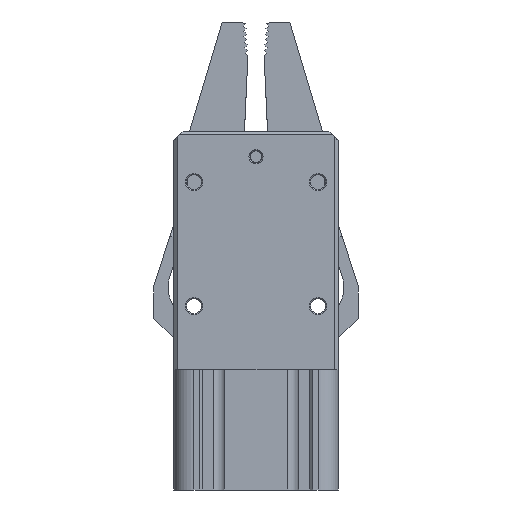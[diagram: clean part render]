
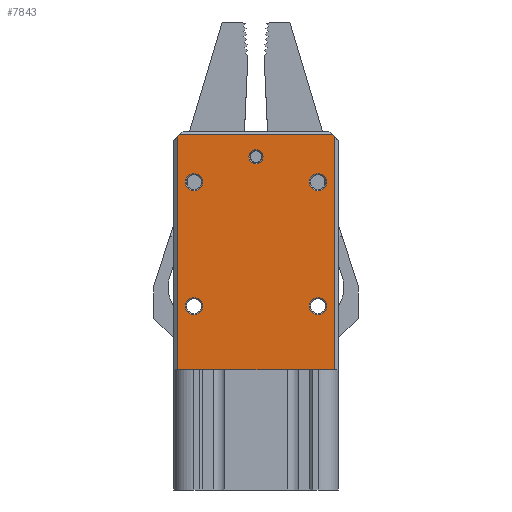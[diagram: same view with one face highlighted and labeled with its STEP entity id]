
A CAD part, front view. The second image highlights one B-rep face of the part: STEP entity #7843.
In plain terms, the highlighted planar face has unit normal (0, -1, 0) as drawn and (0, 0, 1) by its records, which use the part's own axes.
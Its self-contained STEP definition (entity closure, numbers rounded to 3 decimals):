
#451=FACE_BOUND('',#1397,.T.);
#452=FACE_BOUND('',#1398,.T.);
#453=FACE_BOUND('',#1399,.T.);
#454=FACE_BOUND('',#1400,.T.);
#455=FACE_BOUND('',#1401,.T.);
#612=PLANE('',#8824);
#904=FACE_OUTER_BOUND('',#1396,.T.);
#1396=EDGE_LOOP('',(#6048,#6049,#6050,#6051,#6052,#6053));
#1397=EDGE_LOOP('',(#6054));
#1398=EDGE_LOOP('',(#6055));
#1399=EDGE_LOOP('',(#6056));
#1400=EDGE_LOOP('',(#6057));
#1401=EDGE_LOOP('',(#6058));
#2003=LINE('',#12894,#2614);
#2004=LINE('',#12896,#2615);
#2005=LINE('',#12898,#2616);
#2006=LINE('',#12900,#2617);
#2007=LINE('',#12902,#2618);
#2008=LINE('',#12903,#2619);
#2614=VECTOR('',#10288,10.);
#2615=VECTOR('',#10289,10.);
#2616=VECTOR('',#10290,10.);
#2617=VECTOR('',#10291,10.);
#2618=VECTOR('',#10292,10.);
#2619=VECTOR('',#10293,10.);
#3127=CIRCLE('',#8821,1.921);
#3130=CIRCLE('',#8825,2.367);
#3131=CIRCLE('',#8826,2.367);
#3132=CIRCLE('',#8827,2.367);
#3133=CIRCLE('',#8828,2.367);
#3695=VERTEX_POINT('',#12884);
#3698=VERTEX_POINT('',#12892);
#3699=VERTEX_POINT('',#12893);
#3700=VERTEX_POINT('',#12895);
#3701=VERTEX_POINT('',#12897);
#3702=VERTEX_POINT('',#12899);
#3703=VERTEX_POINT('',#12901);
#3704=VERTEX_POINT('',#12904);
#3705=VERTEX_POINT('',#12906);
#3706=VERTEX_POINT('',#12908);
#3707=VERTEX_POINT('',#12910);
#4597=EDGE_CURVE('',#3695,#3695,#3127,.T.);
#4601=EDGE_CURVE('',#3698,#3699,#2003,.T.);
#4602=EDGE_CURVE('',#3700,#3698,#2004,.T.);
#4603=EDGE_CURVE('',#3701,#3700,#2005,.T.);
#4604=EDGE_CURVE('',#3702,#3701,#2006,.T.);
#4605=EDGE_CURVE('',#3703,#3702,#2007,.T.);
#4606=EDGE_CURVE('',#3699,#3703,#2008,.T.);
#4607=EDGE_CURVE('',#3704,#3704,#3130,.T.);
#4608=EDGE_CURVE('',#3705,#3705,#3131,.T.);
#4609=EDGE_CURVE('',#3706,#3706,#3132,.T.);
#4610=EDGE_CURVE('',#3707,#3707,#3133,.T.);
#6048=ORIENTED_EDGE('',*,*,#4601,.F.);
#6049=ORIENTED_EDGE('',*,*,#4602,.F.);
#6050=ORIENTED_EDGE('',*,*,#4603,.F.);
#6051=ORIENTED_EDGE('',*,*,#4604,.F.);
#6052=ORIENTED_EDGE('',*,*,#4605,.F.);
#6053=ORIENTED_EDGE('',*,*,#4606,.F.);
#6054=ORIENTED_EDGE('',*,*,#4607,.F.);
#6055=ORIENTED_EDGE('',*,*,#4608,.F.);
#6056=ORIENTED_EDGE('',*,*,#4609,.F.);
#6057=ORIENTED_EDGE('',*,*,#4610,.F.);
#6058=ORIENTED_EDGE('',*,*,#4597,.F.);
#7843=ADVANCED_FACE('',(#904,#451,#452,#453,#454,#455),#612,.T.);
#8821=AXIS2_PLACEMENT_3D('',#12885,#10279,#10280);
#8824=AXIS2_PLACEMENT_3D('',#12891,#10286,#10287);
#8825=AXIS2_PLACEMENT_3D('',#12905,#10294,#10295);
#8826=AXIS2_PLACEMENT_3D('',#12907,#10296,#10297);
#8827=AXIS2_PLACEMENT_3D('',#12909,#10298,#10299);
#8828=AXIS2_PLACEMENT_3D('',#12911,#10300,#10301);
#10279=DIRECTION('center_axis',(0.,0.,1.));
#10280=DIRECTION('ref_axis',(-1.,0.,0.));
#10286=DIRECTION('center_axis',(0.,0.,1.));
#10287=DIRECTION('ref_axis',(1.,0.,0.));
#10288=DIRECTION('',(0.707,0.707,0.));
#10289=DIRECTION('',(0.,1.,0.));
#10290=DIRECTION('',(-1.,0.,0.));
#10291=DIRECTION('',(0.,-1.,0.));
#10292=DIRECTION('',(0.707,-0.707,0.));
#10293=DIRECTION('',(1.,0.,0.));
#10294=DIRECTION('center_axis',(0.,0.,1.));
#10295=DIRECTION('ref_axis',(-1.,0.,0.));
#10296=DIRECTION('center_axis',(0.,0.,1.));
#10297=DIRECTION('ref_axis',(-1.,0.,0.));
#10298=DIRECTION('center_axis',(0.,0.,1.));
#10299=DIRECTION('ref_axis',(-1.,0.,0.));
#10300=DIRECTION('center_axis',(0.,0.,1.));
#10301=DIRECTION('ref_axis',(-1.,0.,0.));
#12884=CARTESIAN_POINT('',(1.921,25.7,6.35));
#12885=CARTESIAN_POINT('Origin',(0.,25.7,6.35));
#12891=CARTESIAN_POINT('Origin',(0.,0.,6.35));
#12892=CARTESIAN_POINT('',(-21.5,31.2,6.35));
#12893=CARTESIAN_POINT('',(-21.,31.7,6.35));
#12894=CARTESIAN_POINT('',(-23.8,28.9,6.35));
#12895=CARTESIAN_POINT('',(-21.5,-32.7,6.35));
#12896=CARTESIAN_POINT('',(-21.5,-16.35,6.35));
#12897=CARTESIAN_POINT('',(21.5,-32.7,6.35));
#12898=CARTESIAN_POINT('',(22.5,-32.7,6.35));
#12899=CARTESIAN_POINT('',(21.5,31.2,6.35));
#12900=CARTESIAN_POINT('',(21.5,16.35,6.35));
#12901=CARTESIAN_POINT('',(21.,31.7,6.35));
#12902=CARTESIAN_POINT('',(23.8,28.9,6.35));
#12903=CARTESIAN_POINT('',(-11.25,31.7,6.35));
#12904=CARTESIAN_POINT('',(-14.633,18.7,6.35));
#12905=CARTESIAN_POINT('Origin',(-17.,18.7,6.35));
#12906=CARTESIAN_POINT('',(19.367,-15.3,6.35));
#12907=CARTESIAN_POINT('Origin',(17.,-15.3,6.35));
#12908=CARTESIAN_POINT('',(19.367,18.7,6.35));
#12909=CARTESIAN_POINT('Origin',(17.,18.7,6.35));
#12910=CARTESIAN_POINT('',(-14.633,-15.3,6.35));
#12911=CARTESIAN_POINT('Origin',(-17.,-15.3,6.35));
